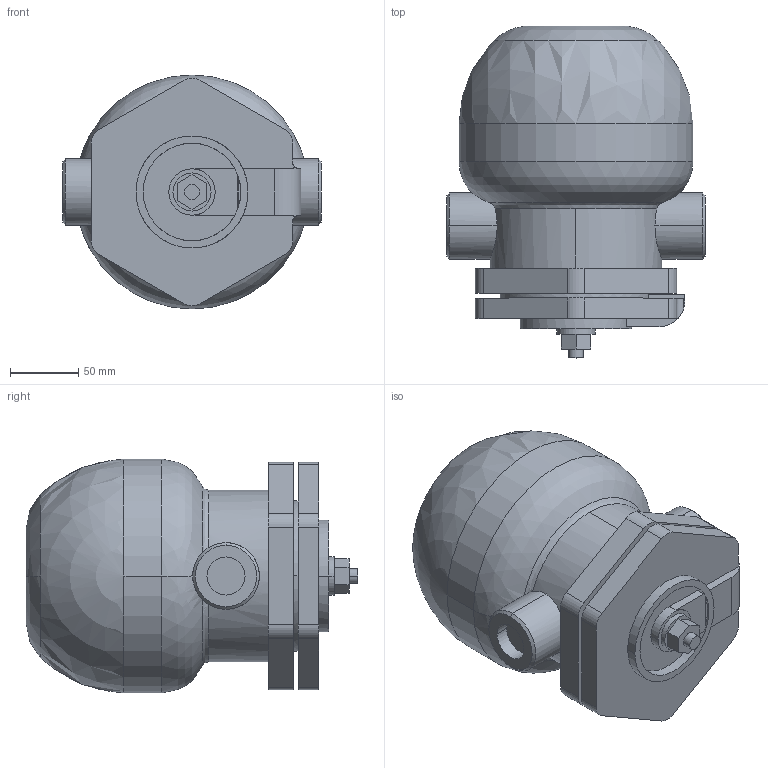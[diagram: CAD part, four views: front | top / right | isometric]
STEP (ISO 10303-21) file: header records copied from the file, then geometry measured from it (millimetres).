
FILE_DESCRIPTION( (''), '2;1');
FILE_NAME ('PC1027.9516.TSF-11 25A_19663.stp','2025-07-30T16:49:20',(''),(''),'spGate 20.6.3 (****-****-****-****)','','');
FILE_SCHEMA (('AUTOMOTIVE_DESIGN'));
Length unit declared in the file: millimetre
Products named in the file (2): Assembly; TSF-11 25A
Assembly tree (1 placements, depth 2):
  Assembly
    TSF-11 25A
Bounding box: 190 x 244 x 172 mm (x, y, z)
Volume: 3953855.8 mm3; surface area: 178173.9 mm2
Topology: 1 solids, 1 shells, 98 faces, 261 edges, 172 vertices
Faces by surface type: plane 48, cylinder 39, bspline 10, sphere 1
Entity records: 5520 total; most frequent: CARTESIAN_POINT 1071, ORIENTED_EDGE 518, DIRECTION 483, COLOUR_RGB 358, PRESENTATION_STYLE_ASSIGNMENT 358, STYLED_ITEM 358, EDGE_CURVE 259, DRAUGHTING_PRE_DEFINED_CURVE_FONT 259
